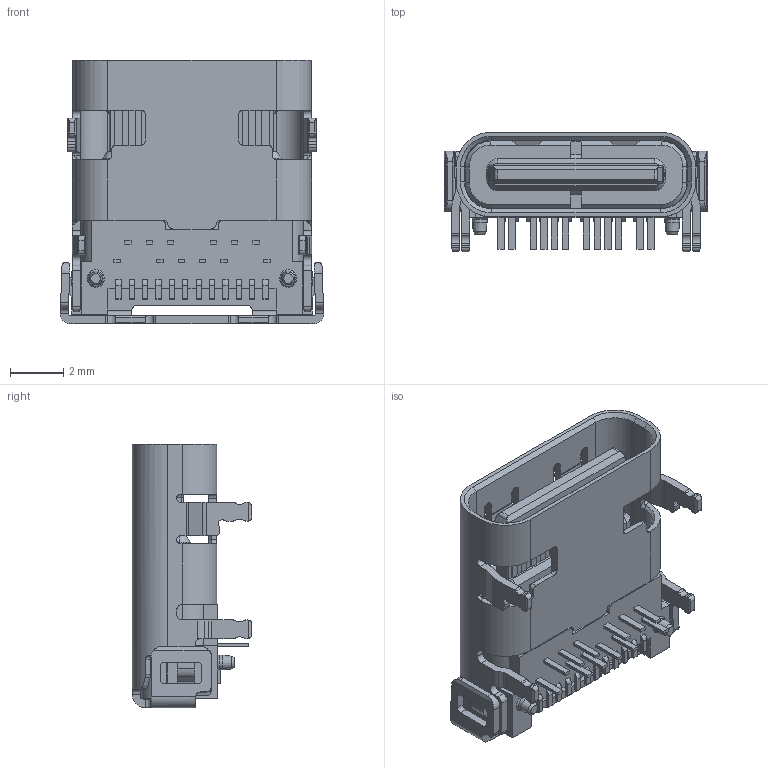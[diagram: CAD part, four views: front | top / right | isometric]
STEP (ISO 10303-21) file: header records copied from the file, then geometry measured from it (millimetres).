
FILE_DESCRIPTION( ( 'STEP AP214' ), '1' );
FILE_NAME( 'p:/temp/worker_166/temp/exporttempdir_6088_218_ZHe0R/format_0/USB4056-03-A.stp', '2021-10-21T20:48:12', ( 'License CC BY-ND 4.0' ), ( 'CADENAS' ), ' ', 'PARTsolutions', ' ' );
FILE_SCHEMA( ( 'AUTOMOTIVE_DESIGN { 1 0 10303 214 1 1 1 1 }' ) );
Length unit declared in the file: millimetre
Products named in the file (11): USB4056-03-A; NONE
Assembly tree (10 placements, depth 2):
  USB4056-03-A
    NONE
    NONE
    NONE
    NONE
    NONE
    NONE
    NONE
    NONE
    NONE
    NONE
Bounding box: 9.85 x 4.46 x 9.87 mm (x, y, z)
Surface area: 640.3 mm2
Topology: 9 solids, 890 shells, 1001 faces, 5308 edges, 5196 vertices
Faces by surface type: plane 677, cylinder 273, cone 31, bspline 20
Full cylindrical faces by diameter (mm): 0.45 x1, 0.55 x2
Entity records: 58151 total; most frequent: CARTESIAN_POINT 18866, ORIENTED_EDGE 5584, EDGE_CURVE 5294, VERTEX_POINT 5192, B_SPLINE_CURVE_WITH_KNOTS 4331, DIRECTION 3802, AXIS2_PLACEMENT_3D 1900, EDGE_LOOP 1046
